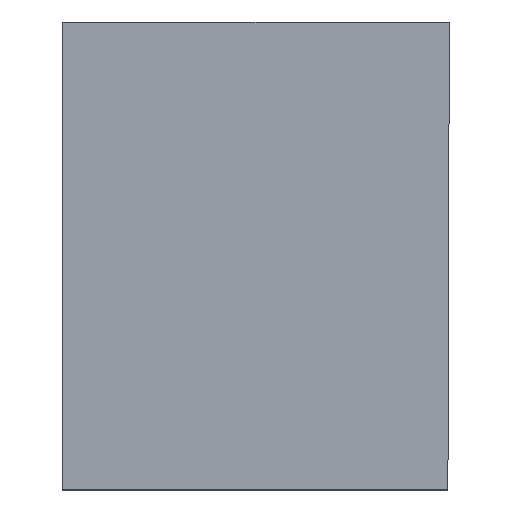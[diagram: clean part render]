
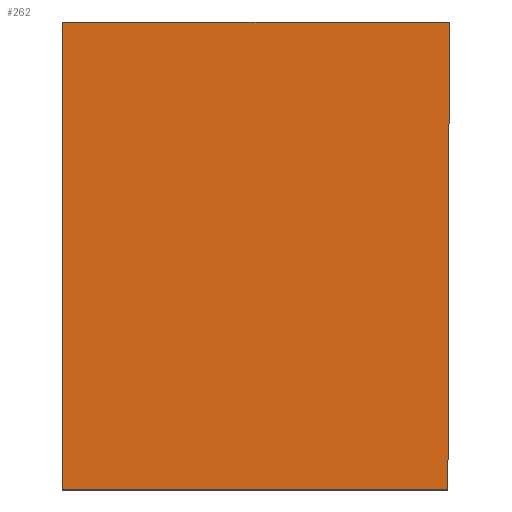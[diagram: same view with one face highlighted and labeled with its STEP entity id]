
A CAD part, top view. The second image highlights one B-rep face of the part: STEP entity #262.
In plain terms, the highlighted planar face has unit normal (0, 0, 1).
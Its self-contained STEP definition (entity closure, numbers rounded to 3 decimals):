
#32 = PLANE('',#33);
#33 = AXIS2_PLACEMENT_3D('',#34,#35,#36);
#34 = CARTESIAN_POINT('',(-31.,197.,17.));
#35 = DIRECTION('',(1.,0.,-0.));
#36 = DIRECTION('',(0.,-1.,0.));
#57 = VERTEX_POINT('',#58);
#58 = CARTESIAN_POINT('',(-31.,67.,20.));
#72 = PLANE('',#73);
#73 = AXIS2_PLACEMENT_3D('',#74,#75,#76);
#74 = CARTESIAN_POINT('',(-60.,67.,0.));
#75 = DIRECTION('',(-0.,1.,0.));
#76 = DIRECTION('',(0.,0.,1.));
#84 = EDGE_CURVE('',#57,#85,#87,.T.);
#85 = VERTEX_POINT('',#86);
#86 = CARTESIAN_POINT('',(-31.,-67.,20.));
#87 = SURFACE_CURVE('',#88,(#92,#99),.PCURVE_S1.);
#88 = LINE('',#89,#90);
#89 = CARTESIAN_POINT('',(-31.,197.,20.));
#90 = VECTOR('',#91,1.);
#91 = DIRECTION('',(0.,-1.,0.));
#92 = PCURVE('',#32,#93);
#93 = DEFINITIONAL_REPRESENTATION('',(#94),#98);
#94 = LINE('',#95,#96);
#95 = CARTESIAN_POINT('',(0.,-3.));
#96 = VECTOR('',#97,1.);
#97 = DIRECTION('',(1.,0.));
#98 = ( GEOMETRIC_REPRESENTATION_CONTEXT(2) 
PARAMETRIC_REPRESENTATION_CONTEXT() REPRESENTATION_CONTEXT('2D SPACE',''
  ) );
#99 = PCURVE('',#100,#105);
#100 = PLANE('',#101);
#101 = AXIS2_PLACEMENT_3D('',#102,#103,#104);
#102 = CARTESIAN_POINT('',(22.339,0.106,20.));
#103 = DIRECTION('',(0.,0.,1.));
#104 = DIRECTION('',(1.,0.,-0.));
#105 = DEFINITIONAL_REPRESENTATION('',(#106),#110);
#106 = LINE('',#107,#108);
#107 = CARTESIAN_POINT('',(-53.339,196.894));
#108 = VECTOR('',#109,1.);
#109 = DIRECTION('',(0.,-1.));
#110 = ( GEOMETRIC_REPRESENTATION_CONTEXT(2) 
PARAMETRIC_REPRESENTATION_CONTEXT() REPRESENTATION_CONTEXT('2D SPACE',''
  ) );
#126 = PLANE('',#127);
#127 = AXIS2_PLACEMENT_3D('',#128,#129,#130);
#128 = CARTESIAN_POINT('',(-60.,-67.,0.));
#129 = DIRECTION('',(-0.,1.,0.));
#130 = DIRECTION('',(0.,0.,1.));
#181 = PLANE('',#182);
#182 = AXIS2_PLACEMENT_3D('',#183,#184,#185);
#183 = CARTESIAN_POINT('',(79.,-168.,17.));
#184 = DIRECTION('',(-1.,0.003,0.));
#185 = DIRECTION('',(0.003,1.,0.));
#217 = EDGE_CURVE('',#218,#85,#220,.T.);
#218 = VERTEX_POINT('',#219);
#219 = CARTESIAN_POINT('',(79.301,-67.,20.));
#220 = SURFACE_CURVE('',#221,(#225,#232),.PCURVE_S1.);
#221 = LINE('',#222,#223);
#222 = CARTESIAN_POINT('',(-18.831,-67.,20.));
#223 = VECTOR('',#224,1.);
#224 = DIRECTION('',(-1.,-0.,0.));
#225 = PCURVE('',#126,#226);
#226 = DEFINITIONAL_REPRESENTATION('',(#227),#231);
#227 = LINE('',#228,#229);
#228 = CARTESIAN_POINT('',(20.,41.169));
#229 = VECTOR('',#230,1.);
#230 = DIRECTION('',(0.,-1.));
#231 = ( GEOMETRIC_REPRESENTATION_CONTEXT(2) 
PARAMETRIC_REPRESENTATION_CONTEXT() REPRESENTATION_CONTEXT('2D SPACE',''
  ) );
#232 = PCURVE('',#100,#233);
#233 = DEFINITIONAL_REPRESENTATION('',(#234),#238);
#234 = LINE('',#235,#236);
#235 = CARTESIAN_POINT('',(-41.169,-67.106));
#236 = VECTOR('',#237,1.);
#237 = DIRECTION('',(-1.,0.));
#238 = ( GEOMETRIC_REPRESENTATION_CONTEXT(2) 
PARAMETRIC_REPRESENTATION_CONTEXT() REPRESENTATION_CONTEXT('2D SPACE',''
  ) );
#262 = ADVANCED_FACE('',(#263),#100,.T.);
#263 = FACE_BOUND('',#264,.T.);
#264 = EDGE_LOOP('',(#265,#266,#267,#290));
#265 = ORIENTED_EDGE('',*,*,#84,.T.);
#266 = ORIENTED_EDGE('',*,*,#217,.F.);
#267 = ORIENTED_EDGE('',*,*,#268,.T.);
#268 = EDGE_CURVE('',#218,#269,#271,.T.);
#269 = VERTEX_POINT('',#270);
#270 = CARTESIAN_POINT('',(79.699,67.,20.));
#271 = SURFACE_CURVE('',#272,(#276,#283),.PCURVE_S1.);
#272 = LINE('',#273,#274);
#273 = CARTESIAN_POINT('',(79.,-168.,20.));
#274 = VECTOR('',#275,1.);
#275 = DIRECTION('',(0.003,1.,0.));
#276 = PCURVE('',#100,#277);
#277 = DEFINITIONAL_REPRESENTATION('',(#278),#282);
#278 = LINE('',#279,#280);
#279 = CARTESIAN_POINT('',(56.661,-168.106));
#280 = VECTOR('',#281,1.);
#281 = DIRECTION('',(0.003,1.));
#282 = ( GEOMETRIC_REPRESENTATION_CONTEXT(2) 
PARAMETRIC_REPRESENTATION_CONTEXT() REPRESENTATION_CONTEXT('2D SPACE',''
  ) );
#283 = PCURVE('',#181,#284);
#284 = DEFINITIONAL_REPRESENTATION('',(#285),#289);
#285 = LINE('',#286,#287);
#286 = CARTESIAN_POINT('',(0.,-3.));
#287 = VECTOR('',#288,1.);
#288 = DIRECTION('',(1.,0.));
#289 = ( GEOMETRIC_REPRESENTATION_CONTEXT(2) 
PARAMETRIC_REPRESENTATION_CONTEXT() REPRESENTATION_CONTEXT('2D SPACE',''
  ) );
#290 = ORIENTED_EDGE('',*,*,#291,.T.);
#291 = EDGE_CURVE('',#269,#57,#292,.T.);
#292 = SURFACE_CURVE('',#293,(#297,#304),.PCURVE_S1.);
#293 = LINE('',#294,#295);
#294 = CARTESIAN_POINT('',(-18.831,67.,20.));
#295 = VECTOR('',#296,1.);
#296 = DIRECTION('',(-1.,-0.,0.));
#297 = PCURVE('',#100,#298);
#298 = DEFINITIONAL_REPRESENTATION('',(#299),#303);
#299 = LINE('',#300,#301);
#300 = CARTESIAN_POINT('',(-41.169,66.894));
#301 = VECTOR('',#302,1.);
#302 = DIRECTION('',(-1.,0.));
#303 = ( GEOMETRIC_REPRESENTATION_CONTEXT(2) 
PARAMETRIC_REPRESENTATION_CONTEXT() REPRESENTATION_CONTEXT('2D SPACE',''
  ) );
#304 = PCURVE('',#72,#305);
#305 = DEFINITIONAL_REPRESENTATION('',(#306),#310);
#306 = LINE('',#307,#308);
#307 = CARTESIAN_POINT('',(20.,41.169));
#308 = VECTOR('',#309,1.);
#309 = DIRECTION('',(0.,-1.));
#310 = ( GEOMETRIC_REPRESENTATION_CONTEXT(2) 
PARAMETRIC_REPRESENTATION_CONTEXT() REPRESENTATION_CONTEXT('2D SPACE',''
  ) );
